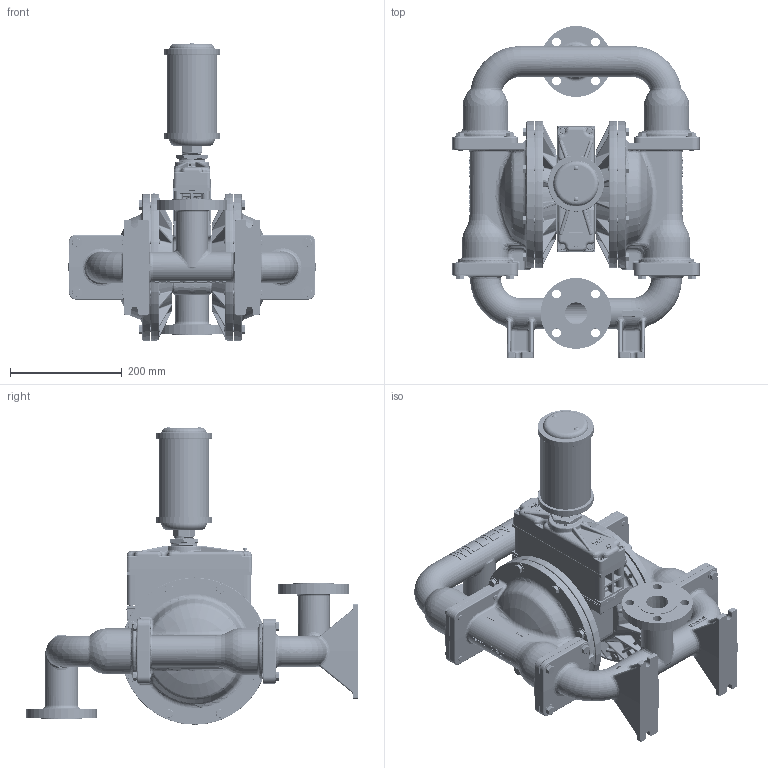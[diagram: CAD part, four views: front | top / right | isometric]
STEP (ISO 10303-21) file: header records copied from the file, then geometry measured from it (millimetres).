
FILE_DESCRIPTION((''),'2;1');
FILE_NAME('PS430_ALUM_TOP_ASM_SW0001','2016-01-26T',('Nathan.hale'),(''),'PRO/ENGINEER BY PARAMETRIC TECHNOLOGY CORPORATION, 2015360','PRO/ENGINEER BY PARAMETRIC TECHNOLOGY CORPORATION, 2015360','');
FILE_SCHEMA(('CONFIG_CONTROL_DESIGN'));
Length unit declared in the file: inch
Products named in the file (1): PS430_ALUM_TOP_ASM_SW0001
Bounding box: 442.46 x 594.39 x 533.53 mm (x, y, z)
Volume: 8578837.1 mm3; surface area: 1959660.2 mm2
Topology: 1 solids, 3 shells, 19764 faces, 52275 edges, 32774 vertices
Faces by surface type: plane 11362, cylinder 2913, bspline 1934, torus 1646, cone 1244, sphere 571, extrusion 94
Entity records: 782518 total; most frequent: CARTESIAN_POINT 315307, ORIENTED_EDGE 103402, DIRECTION 88148, EDGE_CURVE 51701, VERTEX_POINT 32773, VECTOR 31732, LINE 31638, AXIS2_PLACEMENT_3D 28208
